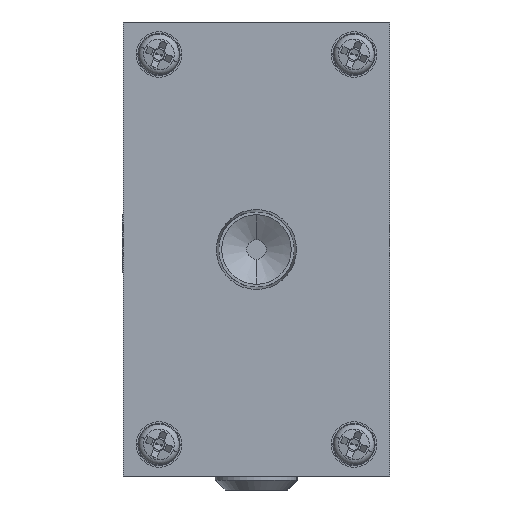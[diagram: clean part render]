
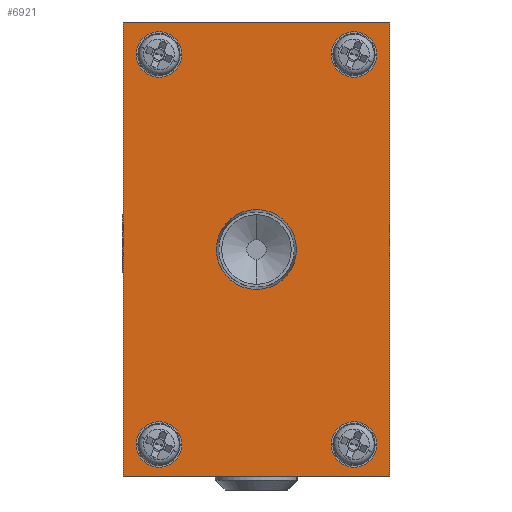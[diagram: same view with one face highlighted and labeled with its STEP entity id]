
A CAD part, left-side view. The second image highlights one B-rep face of the part: STEP entity #6921.
In plain terms, the highlighted planar face has unit normal (-1, 0, 0) as drawn and (1, 0, 0) by its records, which use the part's own axes.
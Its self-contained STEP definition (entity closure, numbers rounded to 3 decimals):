
#61 = VECTOR ( 'NONE', #12119, 1000. ) ;
#166 = VERTEX_POINT ( 'NONE', #1824 ) ;
#239 = PLANE ( 'NONE',  #8441 ) ;
#357 = AXIS2_PLACEMENT_3D ( 'NONE', #12703, #15563, #16685 ) ;
#584 = CARTESIAN_POINT ( 'NONE',  ( 67.5, 20.5, -35. ) ) ;
#665 = EDGE_CURVE ( 'NONE', #14842, #4892, #4207, .T. ) ;
#693 = DIRECTION ( 'NONE',  ( 0., 1., 0. ) ) ;
#708 = FACE_BOUND ( 'NONE', #12966, .T. ) ;
#764 = ORIENTED_EDGE ( 'NONE', *, *, #8071, .T. ) ;
#1080 = CIRCLE ( 'NONE', #6232, 3.5 ) ;
#1280 = AXIS2_PLACEMENT_3D ( 'NONE', #14331, #11675, #11449 ) ;
#1305 = EDGE_CURVE ( 'NONE', #1972, #11268, #15478, .T. ) ;
#1549 = CARTESIAN_POINT ( 'NONE',  ( 67.5, 20.5, -35. ) ) ;
#1824 = CARTESIAN_POINT ( 'NONE',  ( 67.5, -18.5, 30. ) ) ;
#1857 = ORIENTED_EDGE ( 'NONE', *, *, #9759, .F. ) ;
#1967 = CARTESIAN_POINT ( 'NONE',  ( 67.5, 11.5, 30. ) ) ;
#1972 = VERTEX_POINT ( 'NONE', #10072 ) ;
#2483 = VECTOR ( 'NONE', #11137, 1000. ) ;
#2614 = VERTEX_POINT ( 'NONE', #6614 ) ;
#2716 = DIRECTION ( 'NONE',  ( 0., 1., 0. ) ) ;
#2817 = DIRECTION ( 'NONE',  ( 0., 0., 1. ) ) ;
#3320 = VERTEX_POINT ( 'NONE', #12573 ) ;
#3406 = CIRCLE ( 'NONE', #14638, 3.5 ) ;
#3469 = CARTESIAN_POINT ( 'NONE',  ( 67.5, -20.5, 35. ) ) ;
#3674 = AXIS2_PLACEMENT_3D ( 'NONE', #13009, #8926, #6454 ) ;
#3957 = EDGE_LOOP ( 'NONE', ( #10348, #1857 ) ) ;
#4123 = VECTOR ( 'NONE', #10435, 1000. ) ;
#4207 = CIRCLE ( 'NONE', #15183, 6.154 ) ;
#4344 = EDGE_CURVE ( 'NONE', #11268, #1972, #12670, .T. ) ;
#4442 = EDGE_LOOP ( 'NONE', ( #16998, #7093 ) ) ;
#4534 = CARTESIAN_POINT ( 'NONE',  ( 67.5, 20.5, 35. ) ) ;
#4609 = FACE_OUTER_BOUND ( 'NONE', #4658, .T. ) ;
#4646 = VERTEX_POINT ( 'NONE', #1549 ) ;
#4658 = EDGE_LOOP ( 'NONE', ( #764, #9486, #16942, #13217 ) ) ;
#4892 = VERTEX_POINT ( 'NONE', #8507 ) ;
#4910 = CARTESIAN_POINT ( 'NONE',  ( 67.5, 15., -30. ) ) ;
#4968 = CIRCLE ( 'NONE', #357, 6.154 ) ;
#5072 = VERTEX_POINT ( 'NONE', #5635 ) ;
#5202 = CIRCLE ( 'NONE', #10923, 3.5 ) ;
#5385 = DIRECTION ( 'NONE',  ( 1., 0., 0. ) ) ;
#5635 = CARTESIAN_POINT ( 'NONE',  ( 67.5, -20.5, -35. ) ) ;
#5744 = CARTESIAN_POINT ( 'NONE',  ( 67.5, -15., -30. ) ) ;
#5868 = ORIENTED_EDGE ( 'NONE', *, *, #7268, .F. ) ;
#5916 = DIRECTION ( 'NONE',  ( 0., 1., 0. ) ) ;
#6232 = AXIS2_PLACEMENT_3D ( 'NONE', #4910, #10128, #8921 ) ;
#6246 = CARTESIAN_POINT ( 'NONE',  ( 67.5, 18.5, -30. ) ) ;
#6301 = VERTEX_POINT ( 'NONE', #6985 ) ;
#6454 = DIRECTION ( 'NONE',  ( 0., 1., 0. ) ) ;
#6614 = CARTESIAN_POINT ( 'NONE',  ( 67.5, 18.5, 30. ) ) ;
#6820 = AXIS2_PLACEMENT_3D ( 'NONE', #11776, #15805, #15690 ) ;
#6921 = ADVANCED_FACE ( 'NONE', ( #708, #12220, #12431, #15093, #7896, #4609 ), #239, .F. ) ;
#6966 = DIRECTION ( 'NONE',  ( 1., 0., 0. ) ) ;
#6985 = CARTESIAN_POINT ( 'NONE',  ( 67.5, 20.5, 35. ) ) ;
#7062 = CIRCLE ( 'NONE', #15063, 3.5 ) ;
#7093 = ORIENTED_EDGE ( 'NONE', *, *, #11997, .F. ) ;
#7171 = LINE ( 'NONE', #15935, #4123 ) ;
#7268 = EDGE_CURVE ( 'NONE', #8953, #166, #7062, .T. ) ;
#7518 = ORIENTED_EDGE ( 'NONE', *, *, #9138, .F. ) ;
#7896 = FACE_BOUND ( 'NONE', #3957, .T. ) ;
#7954 = DIRECTION ( 'NONE',  ( 0., 1., 0. ) ) ;
#8071 = EDGE_CURVE ( 'NONE', #5072, #4646, #8690, .T. ) ;
#8146 = DIRECTION ( 'NONE',  ( -1., 0., 0. ) ) ;
#8372 = AXIS2_PLACEMENT_3D ( 'NONE', #5744, #9825, #5916 ) ;
#8441 = AXIS2_PLACEMENT_3D ( 'NONE', #10750, #8146, #2817 ) ;
#8507 = CARTESIAN_POINT ( 'NONE',  ( 67.5, 0., -6.154 ) ) ;
#8510 = EDGE_CURVE ( 'NONE', #14912, #3320, #1080, .T. ) ;
#8690 = LINE ( 'NONE', #584, #10337 ) ;
#8921 = DIRECTION ( 'NONE',  ( 0., 1., 0. ) ) ;
#8926 = DIRECTION ( 'NONE',  ( 1., 0., 0. ) ) ;
#8953 = VERTEX_POINT ( 'NONE', #13722 ) ;
#9138 = EDGE_CURVE ( 'NONE', #4892, #14842, #4968, .T. ) ;
#9486 = ORIENTED_EDGE ( 'NONE', *, *, #9989, .F. ) ;
#9676 = VERTEX_POINT ( 'NONE', #3469 ) ;
#9759 = EDGE_CURVE ( 'NONE', #3320, #14912, #13770, .T. ) ;
#9825 = DIRECTION ( 'NONE',  ( 1., 0., 0. ) ) ;
#9875 = LINE ( 'NONE', #4534, #2483 ) ;
#9989 = EDGE_CURVE ( 'NONE', #6301, #4646, #9875, .T. ) ;
#10072 = CARTESIAN_POINT ( 'NONE',  ( 67.5, -18.5, -30. ) ) ;
#10128 = DIRECTION ( 'NONE',  ( 1., 0., 0. ) ) ;
#10337 = VECTOR ( 'NONE', #693, 1000. ) ;
#10348 = ORIENTED_EDGE ( 'NONE', *, *, #8510, .F. ) ;
#10362 = EDGE_CURVE ( 'NONE', #9676, #6301, #7171, .T. ) ;
#10373 = CARTESIAN_POINT ( 'NONE',  ( 67.5, 15., 30. ) ) ;
#10433 = DIRECTION ( 'NONE',  ( 0., 1., 0. ) ) ;
#10435 = DIRECTION ( 'NONE',  ( 0., 1., 0. ) ) ;
#10488 = DIRECTION ( 'NONE',  ( 1., 0., 0. ) ) ;
#10520 = ORIENTED_EDGE ( 'NONE', *, *, #1305, .F. ) ;
#10746 = CARTESIAN_POINT ( 'NONE',  ( 67.5, 15., 30. ) ) ;
#10750 = CARTESIAN_POINT ( 'NONE',  ( 67.5, 20.5, 35. ) ) ;
#10806 = CARTESIAN_POINT ( 'NONE',  ( 67.5, -20.5, 35. ) ) ;
#10923 = AXIS2_PLACEMENT_3D ( 'NONE', #10746, #13264, #2716 ) ;
#10931 = EDGE_LOOP ( 'NONE', ( #5868, #16127 ) ) ;
#11137 = DIRECTION ( 'NONE',  ( 0., 0., -1. ) ) ;
#11268 = VERTEX_POINT ( 'NONE', #12290 ) ;
#11315 = ORIENTED_EDGE ( 'NONE', *, *, #665, .F. ) ;
#11449 = DIRECTION ( 'NONE',  ( 0., 1., 0. ) ) ;
#11675 = DIRECTION ( 'NONE',  ( 1., 0., 0. ) ) ;
#11753 = CIRCLE ( 'NONE', #3674, 3.5 ) ;
#11762 = LINE ( 'NONE', #10806, #61 ) ;
#11776 = CARTESIAN_POINT ( 'NONE',  ( 67.5, -15., -30. ) ) ;
#11997 = EDGE_CURVE ( 'NONE', #14320, #2614, #3406, .T. ) ;
#12119 = DIRECTION ( 'NONE',  ( 0., 0., -1. ) ) ;
#12220 = FACE_BOUND ( 'NONE', #10931, .T. ) ;
#12290 = CARTESIAN_POINT ( 'NONE',  ( 67.5, -11.5, -30. ) ) ;
#12431 = FACE_BOUND ( 'NONE', #4442, .T. ) ;
#12573 = CARTESIAN_POINT ( 'NONE',  ( 67.5, 11.5, -30. ) ) ;
#12670 = CIRCLE ( 'NONE', #6820, 3.5 ) ;
#12703 = CARTESIAN_POINT ( 'NONE',  ( 67.5, 0., 0. ) ) ;
#12853 = EDGE_LOOP ( 'NONE', ( #13298, #10520 ) ) ;
#12966 = EDGE_LOOP ( 'NONE', ( #7518, #11315 ) ) ;
#13009 = CARTESIAN_POINT ( 'NONE',  ( 67.5, -15., 30. ) ) ;
#13217 = ORIENTED_EDGE ( 'NONE', *, *, #14630, .T. ) ;
#13264 = DIRECTION ( 'NONE',  ( 1., 0., 0. ) ) ;
#13298 = ORIENTED_EDGE ( 'NONE', *, *, #4344, .F. ) ;
#13349 = CARTESIAN_POINT ( 'NONE',  ( 67.5, 0., 0. ) ) ;
#13722 = CARTESIAN_POINT ( 'NONE',  ( 67.5, -11.5, 30. ) ) ;
#13770 = CIRCLE ( 'NONE', #1280, 3.5 ) ;
#14320 = VERTEX_POINT ( 'NONE', #1967 ) ;
#14331 = CARTESIAN_POINT ( 'NONE',  ( 67.5, 15., -30. ) ) ;
#14570 = EDGE_CURVE ( 'NONE', #2614, #14320, #5202, .T. ) ;
#14630 = EDGE_CURVE ( 'NONE', #9676, #5072, #11762, .T. ) ;
#14638 = AXIS2_PLACEMENT_3D ( 'NONE', #10373, #10488, #10433 ) ;
#14842 = VERTEX_POINT ( 'NONE', #15368 ) ;
#14912 = VERTEX_POINT ( 'NONE', #6246 ) ;
#15063 = AXIS2_PLACEMENT_3D ( 'NONE', #15830, #5385, #7954 ) ;
#15093 = FACE_BOUND ( 'NONE', #12853, .T. ) ;
#15183 = AXIS2_PLACEMENT_3D ( 'NONE', #13349, #6966, #15986 ) ;
#15368 = CARTESIAN_POINT ( 'NONE',  ( 67.5, 0., 6.154 ) ) ;
#15478 = CIRCLE ( 'NONE', #8372, 3.5 ) ;
#15563 = DIRECTION ( 'NONE',  ( 1., 0., 0. ) ) ;
#15690 = DIRECTION ( 'NONE',  ( 0., 1., 0. ) ) ;
#15805 = DIRECTION ( 'NONE',  ( 1., 0., 0. ) ) ;
#15830 = CARTESIAN_POINT ( 'NONE',  ( 67.5, -15., 30. ) ) ;
#15935 = CARTESIAN_POINT ( 'NONE',  ( 67.5, 20.5, 35. ) ) ;
#15986 = DIRECTION ( 'NONE',  ( 0., 0., -1. ) ) ;
#16127 = ORIENTED_EDGE ( 'NONE', *, *, #16247, .F. ) ;
#16247 = EDGE_CURVE ( 'NONE', #166, #8953, #11753, .T. ) ;
#16685 = DIRECTION ( 'NONE',  ( 0., 0., -1. ) ) ;
#16942 = ORIENTED_EDGE ( 'NONE', *, *, #10362, .F. ) ;
#16998 = ORIENTED_EDGE ( 'NONE', *, *, #14570, .F. ) ;
